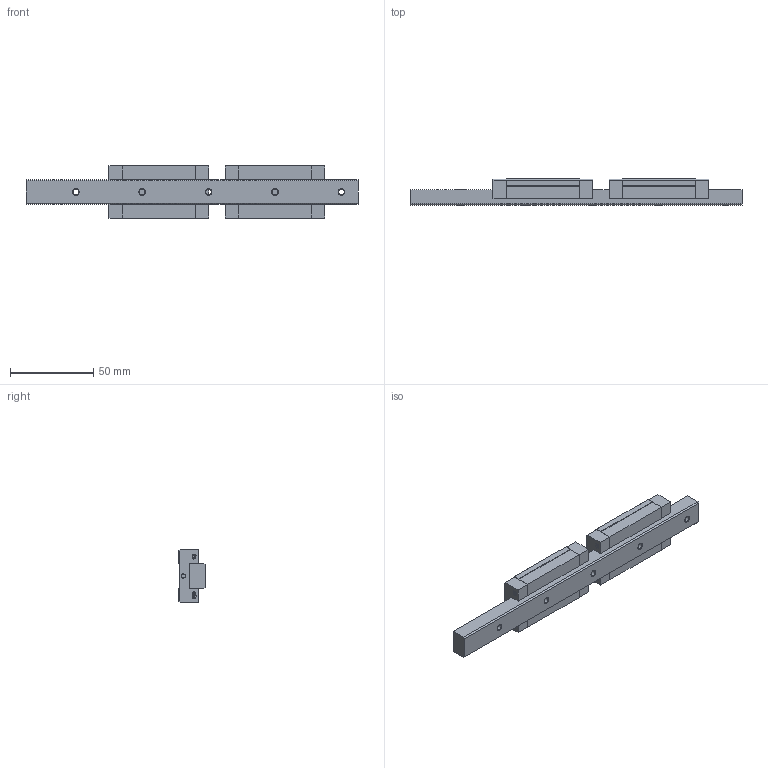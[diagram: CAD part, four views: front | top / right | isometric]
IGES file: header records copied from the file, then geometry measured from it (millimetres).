
Start section: SolidWorks IGES file using analytic representation for surfaces
Global section: file name: H:\直得科技CAD圖檔\3D目錄檔\MR-M Series\15ML.IGS; native system: SolidWorks 2005 by SolidWorks Corporation; preprocessor: SolidWorks 2005 by SolidWorks Corporation; author: cpc; date: 050331.121949; units: millimetre
Bounding box: 200 x 16 x 32 mm (x, y, z)
Surface area: 18051.8 mm2 (no closed solid volume)
Topology: 0 solids, 0 shells, 464 faces, 6096 edges, 6080 vertices
Faces by surface type: bspline 352, revolution 112
